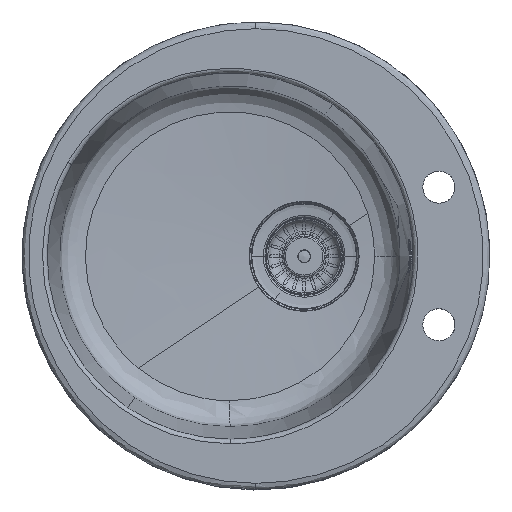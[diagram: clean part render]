
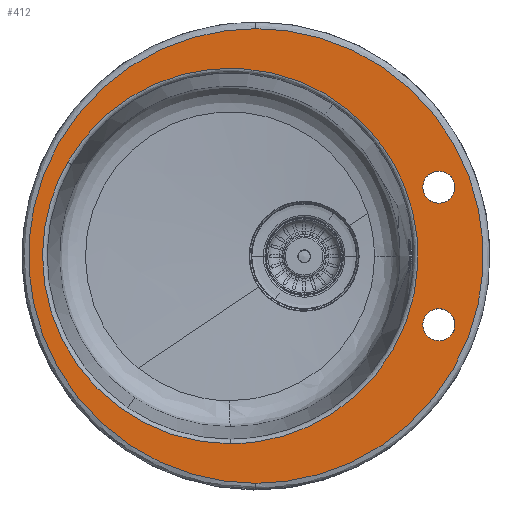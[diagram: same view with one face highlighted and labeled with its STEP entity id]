
A CAD part, top view. The second image highlights one B-rep face of the part: STEP entity #412.
In plain terms, the highlighted planar face has unit normal (0, 0, 1).
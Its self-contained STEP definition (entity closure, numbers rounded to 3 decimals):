
#34=FACE_BOUND('',#1473,.T.);
#35=FACE_BOUND('',#1474,.T.);
#36=FACE_BOUND('',#1475,.T.);
#412=ADVANCED_FACE('',(#935,#34,#35,#36),#8689,.T.);
#935=FACE_OUTER_BOUND('',#1472,.T.);
#1472=EDGE_LOOP('',(#3532,#3533));
#1473=EDGE_LOOP('',(#3534,#3535));
#1474=EDGE_LOOP('',(#3536,#3537));
#1475=EDGE_LOOP('',(#3538,#3539));
#3532=ORIENTED_EDGE('',*,*,#5611,.F.);
#3533=ORIENTED_EDGE('',*,*,#5570,.F.);
#3534=ORIENTED_EDGE('',*,*,#5575,.F.);
#3535=ORIENTED_EDGE('',*,*,#5208,.F.);
#3536=ORIENTED_EDGE('',*,*,#5243,.T.);
#3537=ORIENTED_EDGE('',*,*,#5613,.T.);
#3538=ORIENTED_EDGE('',*,*,#5264,.T.);
#3539=ORIENTED_EDGE('',*,*,#5617,.T.);
#5208=EDGE_CURVE('',#8047,#8266,#6849,.T.);
#5243=EDGE_CURVE('',#8079,#8291,#6857,.T.);
#5264=EDGE_CURVE('',#8080,#8293,#6236,.T.);
#5570=EDGE_CURVE('',#8078,#8289,#6418,.T.);
#5575=EDGE_CURVE('',#8266,#8047,#6946,.T.);
#5611=EDGE_CURVE('',#8289,#8078,#6442,.T.);
#5613=EDGE_CURVE('',#8291,#8079,#6444,.T.);
#5617=EDGE_CURVE('',#8293,#8080,#6446,.T.);
#6236=(
BOUNDED_CURVE()
B_SPLINE_CURVE(2,(#21365,#21366,#21367),.UNSPECIFIED.,.F.,.F.)
B_SPLINE_CURVE_WITH_KNOTS((3,3),(0.593,2.688),
 .UNSPECIFIED.)
CURVE()
GEOMETRIC_REPRESENTATION_ITEM()
RATIONAL_B_SPLINE_CURVE((1.,0.5,1.))
REPRESENTATION_ITEM('')
);
#6418=(
BOUNDED_CURVE()
B_SPLINE_CURVE(2,(#22529,#22530,#22531,#22532,#22533),.UNSPECIFIED.,.F.,
 .F.)
B_SPLINE_CURVE_WITH_KNOTS((3,2,3),(3.735,5.306,6.876),
 .UNSPECIFIED.)
CURVE()
GEOMETRIC_REPRESENTATION_ITEM()
RATIONAL_B_SPLINE_CURVE((1.,0.707,1.,0.707,1.))
REPRESENTATION_ITEM('')
);
#6442=(
BOUNDED_CURVE()
B_SPLINE_CURVE(2,(#22755,#22756,#22757,#22758,#22759),.UNSPECIFIED.,.F.,
 .F.)
B_SPLINE_CURVE_WITH_KNOTS((3,2,3),(6.876,8.447,10.018),
 .UNSPECIFIED.)
CURVE()
GEOMETRIC_REPRESENTATION_ITEM()
RATIONAL_B_SPLINE_CURVE((1.,0.707,1.,0.707,1.))
REPRESENTATION_ITEM('')
);
#6444=(
BOUNDED_CURVE()
B_SPLINE_CURVE(2,(#22762,#22763,#22764,#22765,#22766),.UNSPECIFIED.,.F.,
 .F.)
B_SPLINE_CURVE_WITH_KNOTS((3,2,3),(0.,1.571,
3.142),.UNSPECIFIED.)
CURVE()
GEOMETRIC_REPRESENTATION_ITEM()
RATIONAL_B_SPLINE_CURVE((1.,0.707,1.,0.707,1.))
REPRESENTATION_ITEM('')
);
#6446=(
BOUNDED_CURVE()
B_SPLINE_CURVE(2,(#22778,#22779,#22780,#22781,#22782),.UNSPECIFIED.,.F.,
 .F.)
B_SPLINE_CURVE_WITH_KNOTS((3,2,3),(2.688,4.782,6.876),
 .UNSPECIFIED.)
CURVE()
GEOMETRIC_REPRESENTATION_ITEM()
RATIONAL_B_SPLINE_CURVE((1.,0.5,1.,0.5,
1.))
REPRESENTATION_ITEM('')
);
#6849=TRIMMED_CURVE($,#7361,(#21043),(#21044),.T.,.CARTESIAN.);
#6857=TRIMMED_CURVE($,#7369,(#21157),(#21158),.T.,.CARTESIAN.);
#6946=TRIMMED_CURVE($,#7458,(#22609),(#22610),.T.,.CARTESIAN.);
#7361=CIRCLE('',#9535,17.5);
#7369=CIRCLE('',#9543,17.5);
#7458=CIRCLE('',#9632,17.5);
#8047=VERTEX_POINT('',#20778);
#8078=VERTEX_POINT('',#20809);
#8079=VERTEX_POINT('',#20810);
#8080=VERTEX_POINT('',#20811);
#8266=VERTEX_POINT('',#20997);
#8289=VERTEX_POINT('',#21020);
#8291=VERTEX_POINT('',#21022);
#8293=VERTEX_POINT('',#21024);
#8689=PLANE('',#9494);
#9494=AXIS2_PLACEMENT_3D('',#19065,#10631,$);
#9535=AXIS2_PLACEMENT_3D($,#21042,#10672,#10673);
#9543=AXIS2_PLACEMENT_3D($,#21156,#10688,#10689);
#9632=AXIS2_PLACEMENT_3D($,#22608,#10866,#10867);
#10631=DIRECTION('',(0.,0.,1.));
#10672=DIRECTION('',(0.,0.,1.));
#10673=DIRECTION('',(0.,1.,0.));
#10688=DIRECTION('',(0.,0.,-1.));
#10689=DIRECTION('',(0.,-1.,0.));
#10866=DIRECTION('',(0.,0.,1.));
#10867=DIRECTION('',(0.,-1.,0.));
#19065=CARTESIAN_POINT('',(-264.994,247.726,8.));
#20778=CARTESIAN_POINT('',(182.051,92.5,8.));
#20809=CARTESIAN_POINT('',(-17.269,247.716,8.));
#20810=CARTESIAN_POINT('',(182.051,-92.5,8.));
#20811=CARTESIAN_POINT('',(-45.269,-204.582,8.));
#20997=CARTESIAN_POINT('',(182.051,57.5,8.));
#21020=CARTESIAN_POINT('',(-17.269,-247.716,8.));
#21022=CARTESIAN_POINT('',(182.051,-57.5,8.));
#21024=CARTESIAN_POINT('',(-222.442,102.291,8.));
#21042=CARTESIAN_POINT('',(182.051,75.,8.));
#21043=CARTESIAN_POINT('',(182.051,92.5,8.));
#21044=CARTESIAN_POINT('',(182.051,57.5,8.));
#21156=CARTESIAN_POINT('',(182.051,-75.,8.));
#21157=CARTESIAN_POINT('',(182.051,-92.5,8.));
#21158=CARTESIAN_POINT('',(182.051,-57.5,8.));
#21365=CARTESIAN_POINT('',(-45.269,-204.582,8.));
#21366=CARTESIAN_POINT('',(-399.615,-204.582,8.));
#21367=CARTESIAN_POINT('',(-222.442,102.291,8.));
#22529=CARTESIAN_POINT('',(-17.269,247.716,8.));
#22530=CARTESIAN_POINT('',(230.447,247.716,8.));
#22531=CARTESIAN_POINT('',(230.447,0.,8.));
#22532=CARTESIAN_POINT('',(230.447,-247.716,8.));
#22533=CARTESIAN_POINT('',(-17.269,-247.716,8.));
#22608=CARTESIAN_POINT('',(182.051,75.,8.));
#22609=CARTESIAN_POINT('',(182.051,57.5,8.));
#22610=CARTESIAN_POINT('',(182.051,92.5,8.));
#22755=CARTESIAN_POINT('',(-17.269,-247.716,8.));
#22756=CARTESIAN_POINT('',(-264.984,-247.716,8.));
#22757=CARTESIAN_POINT('',(-264.984,0.,8.));
#22758=CARTESIAN_POINT('',(-264.984,247.716,8.));
#22759=CARTESIAN_POINT('',(-17.269,247.716,8.));
#22762=CARTESIAN_POINT('',(182.051,-57.5,8.));
#22763=CARTESIAN_POINT('',(199.551,-57.5,8.));
#22764=CARTESIAN_POINT('',(199.551,-75.,8.));
#22765=CARTESIAN_POINT('',(199.551,-92.5,8.));
#22766=CARTESIAN_POINT('',(182.051,-92.5,8.));
#22778=CARTESIAN_POINT('',(-222.442,102.291,8.));
#22779=CARTESIAN_POINT('',(-45.269,409.163,8.));
#22780=CARTESIAN_POINT('',(131.904,102.291,8.));
#22781=CARTESIAN_POINT('',(309.077,-204.582,8.));
#22782=CARTESIAN_POINT('',(-45.269,-204.582,8.));
